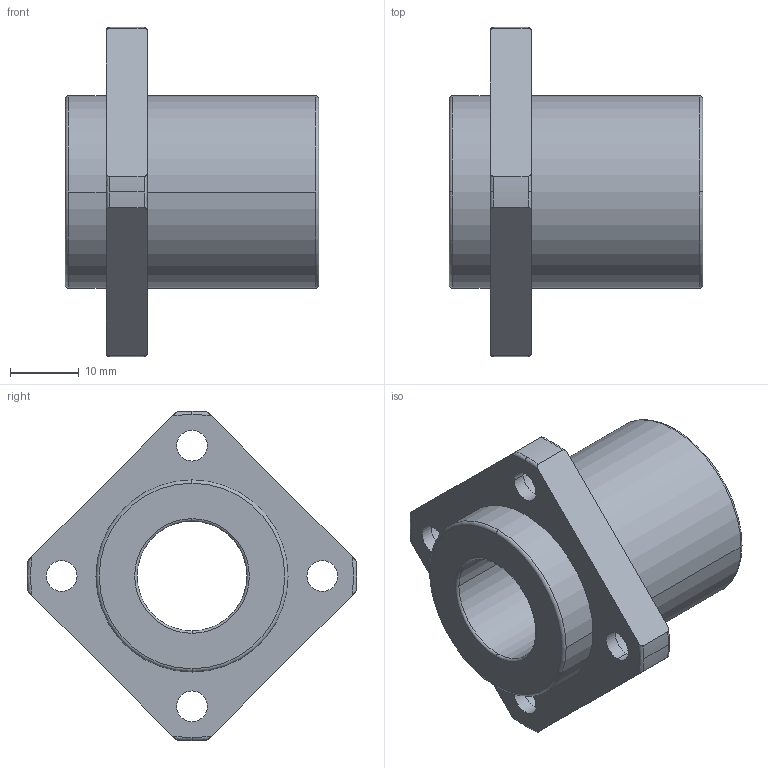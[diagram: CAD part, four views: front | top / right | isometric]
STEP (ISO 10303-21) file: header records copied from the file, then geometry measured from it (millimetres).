
FILE_DESCRIPTION(('FreeCAD Model'),'2;1');
FILE_NAME('Open CASCADE Shape Model','2021-05-03T14:05:59',('Author'),( ''),'Open CASCADE STEP processor 7.5','FreeCAD','Unknown');
FILE_SCHEMA(('AUTOMOTIVE_DESIGN { 1 0 10303 214 1 1 1 1 }'));
Length unit declared in the file: millimetre
Products named in the file (1): linear_lmkp16uu
Bounding box: 37 x 48 x 48 mm (x, y, z)
Volume: 18888.3 mm3; surface area: 8033.3 mm2
Topology: 1 solids, 1 shells, 60 faces, 160 edges, 108 vertices
Faces by surface type: cylinder 28, torus 20, plane 12
Entity records: 6032 total; most frequent: CARTESIAN_POINT 2829, DIRECTION 620, ORIENTED_EDGE 320, PCURVE 320, DEFINITIONAL_REPRESENTATION 320, LINE 268, VECTOR 268, AXIS2_PLACEMENT_3D 165
